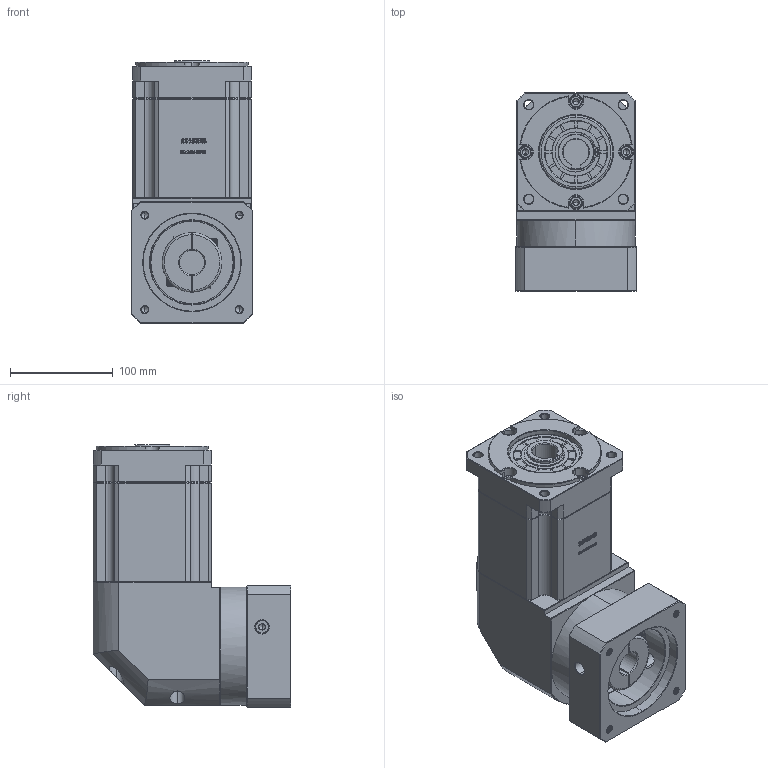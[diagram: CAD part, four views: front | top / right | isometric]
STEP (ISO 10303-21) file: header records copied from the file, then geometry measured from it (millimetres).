
FILE_DESCRIPTION (( 'STEP AP214' ), '1' );
FILE_NAME ('ZBR115A-K25-L3-24-95-130-M8.step', '2023-03-03T05:09:36', ( '' ), ( 'Microsoft' ), 'SwSTEP 2.0', 'SolidWorks 2016', '' );
FILE_SCHEMA (( 'AUTOMOTIVE_DESIGN' ));
Length unit declared in the file: millimetre
Products named in the file (1): ZBR115A-K25-L3-24-95-130-M8
Bounding box: 118 x 192.4 x 255 mm (x, y, z)
Volume: 3572571.8 mm3; surface area: 268818.9 mm2
Topology: 6 solids, 6 shells, 2926 faces, 7778 edges, 4998 vertices
Faces by surface type: plane 1552, bspline 597, cylinder 406, cone 363, torus 8
Entity records: 156433 total; most frequent: CARTESIAN_POINT 56127, ORIENTED_EDGE 15500, DIRECTION 11771, EDGE_CURVE 7750, VECTOR 5255, LINE 5255, VERTEX_POINT 4998, AXIS2_PLACEMENT_3D 3258
